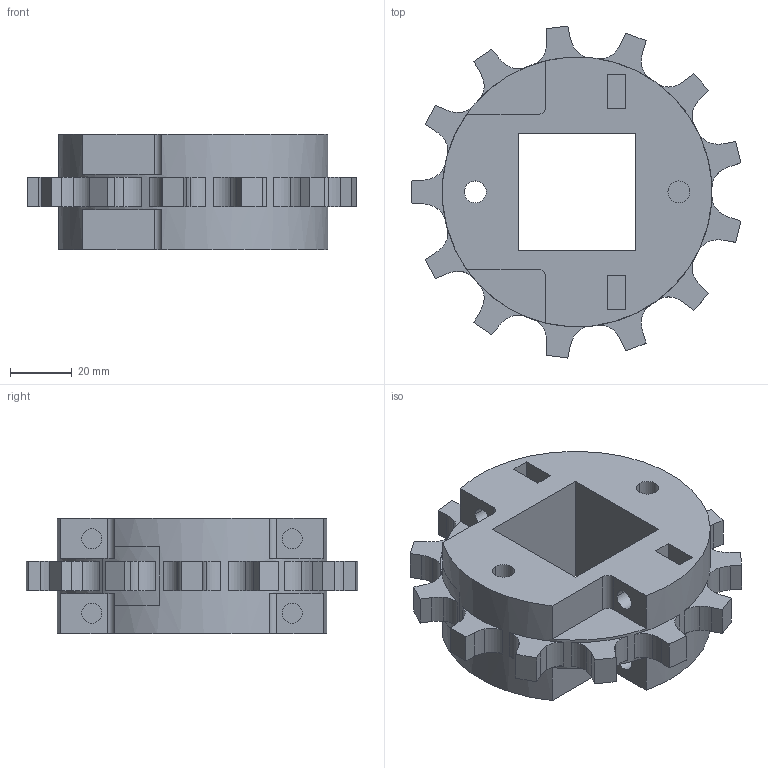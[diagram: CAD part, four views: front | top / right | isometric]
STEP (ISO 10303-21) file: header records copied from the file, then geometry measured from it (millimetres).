
FILE_DESCRIPTION((''),'2;1');
FILE_NAME('S9000_SPLIT_42_SQ','2010-11-16T',('rklein'),('INTRALOX'),'PRO/ENGINEER BY PARAMETRIC TECHNOLOGY CORPORATION, 2009460','PRO/ENGINEER BY PARAMETRIC TECHNOLOGY CORPORATION, 2009460','');
FILE_SCHEMA(('CONFIG_CONTROL_DESIGN'));
Length unit declared in the file: inch
Products named in the file (1): S9000_SPLIT_42_SQ
Bounding box: 106.93 x 107.71 x 37.59 mm (x, y, z)
Volume: 160680.8 mm3; surface area: 34036.7 mm2
Topology: 1 solids, 1 shells, 174 faces, 464 edges, 310 vertices
Faces by surface type: plane 104, cylinder 70
Entity records: 5542 total; most frequent: DIRECTION 986, CARTESIAN_POINT 948, ORIENTED_EDGE 928, EDGE_CURVE 464, AXIS2_PLACEMENT_3D 348, VERTEX_POINT 310, VECTOR 290, LINE 290
